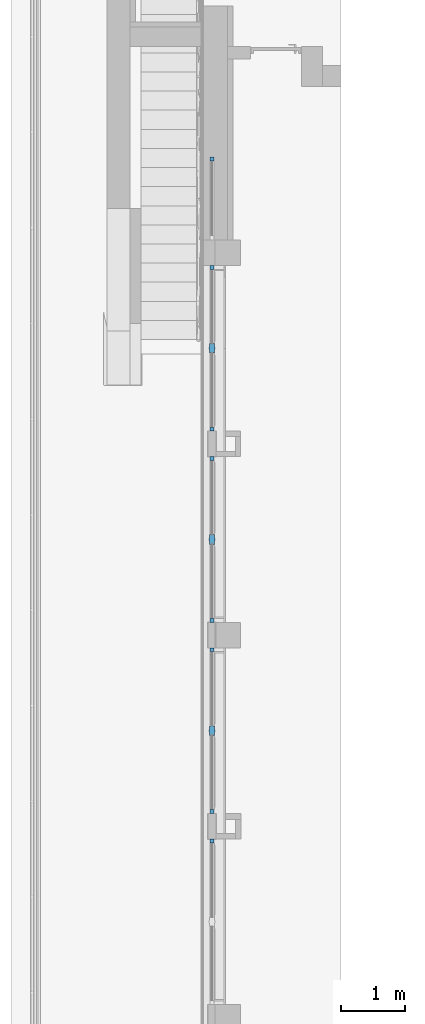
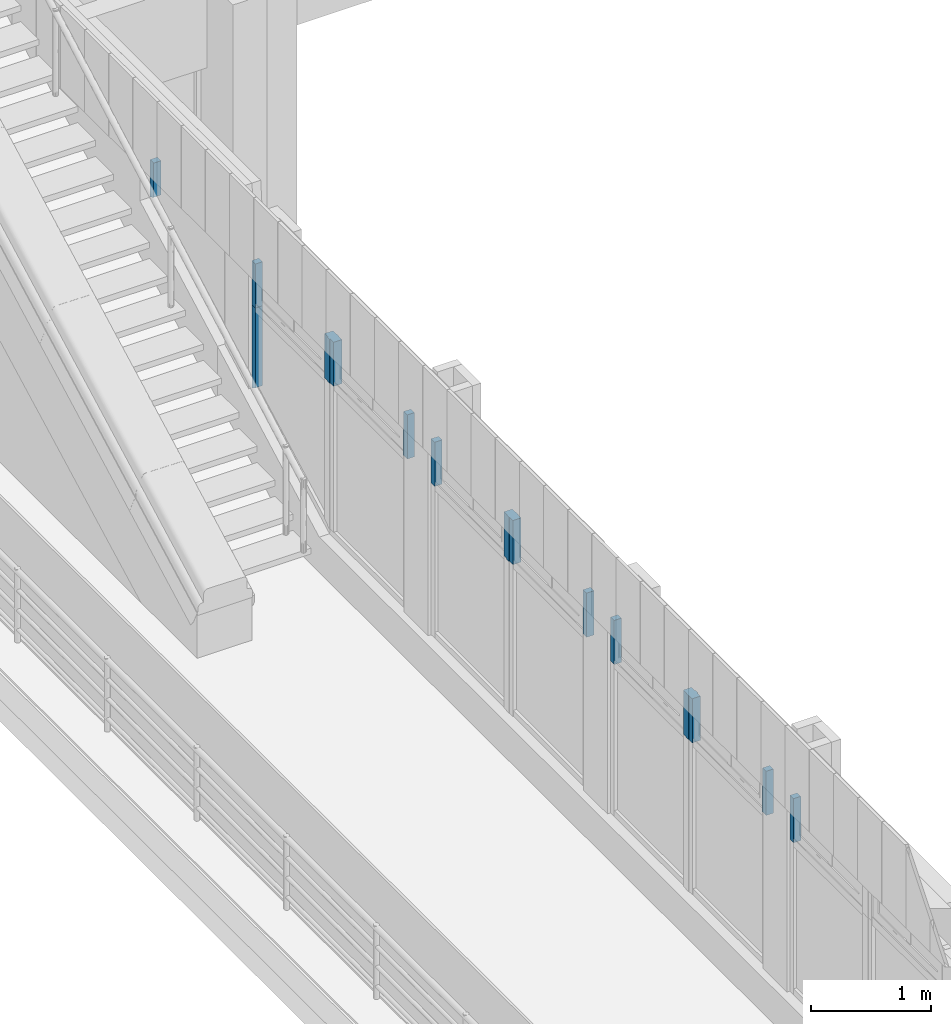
# One storey, part 6 of 16: 12 members, 5 elements without a shape of their own.
"""IFC2X3 building model written with IfcOpenShell, lengths in millimetres."""

import ifcopenshell
import ifcopenshell.guid

model = None  # the IFC model being written
_history = None  # IfcOwnerHistory: only IFC2X3 demands one
_inside = {}  # id of a spatial element -> (the spatial element, [elements in it])
_under = {}  # id of a project, library or spatial element -> (it, [spatial elements below it])
_declared = {}  # id of a project -> (the project, [libraries it declares])
_typed = {}  # id of a type object -> (the type object, [elements of that type])
_made_of = {}  # id of a material, layer set ... -> (it, [elements and type objects made of it])


def new_model(schema):
    """Start an empty IFC model of exactly this schema.

    Asked for "IFC4X3", IfcOpenShell would pick the latest addendum, in which some entities
    have other attributes; the version numbers below select the first issue.
    IFC2X3 requires an IfcOwnerHistory on every rooted entity: one is made here for all.
    """
    global model, _history
    if schema == "IFC4X3":
        model = ifcopenshell.file(schema_version=(4, 3, 0, 0))
    else:
        model = ifcopenshell.file(schema=schema)
    _inside.clear()
    _under.clear()
    _declared.clear()
    _typed.clear()
    _made_of.clear()
    _history = None
    if model.schema == "IFC2X3":
        org = make("IfcOrganization", Name="unknown")
        user = make(
            "IfcPersonAndOrganization",
            ThePerson=make("IfcPerson", FamilyName="unknown"),
            TheOrganization=org,
        )
        app = make(
            "IfcApplication",
            ApplicationDeveloper=org,
            Version="unknown",
            ApplicationFullName="unknown",
            ApplicationIdentifier="unknown",
        )
        _history = make(
            "IfcOwnerHistory",
            OwningUser=user,
            OwningApplication=app,
            ChangeAction="ADDED",
            CreationDate=0,
        )
    return model


def make(cls, **values):
    """One entity of the class cls with the attributes given. An attribute that is None is left unset."""
    return model.create_entity(
        cls, **{name: value for name, value in values.items() if value is not None}
    )


def entity(cls, *values):
    """Any entity or typed value of the class cls, its attributes in the order of the schema. None: left unset."""
    e = model.create_entity(cls)
    for i, value in enumerate(values):
        if value is not None:
            e[i] = value
    return e


def rooted(cls, **values):
    """An entity with a GlobalId (a new one), such as an element, a storey or a relation."""
    return make(cls, GlobalId=ifcopenshell.guid.new(), OwnerHistory=_history, **values)


def si_unit(unit_type, name, prefix=None):
    """IfcSIUnit, for example si_unit("LENGTHUNIT", "METRE", prefix="MILLI")."""
    return make("IfcSIUnit", UnitType=unit_type, Prefix=prefix, Name=name)


def converted_unit(unit_type, name, factor, base, dimensions=None, offset=None):
    """IfcConversionBasedUnit, such as the inch: factor (a typed value) times the base unit."""
    return make(
        "IfcConversionBasedUnit"
        if offset is None
        else "IfcConversionBasedUnitWithOffset",
        ConversionOffset=offset,
        Dimensions=None
        if dimensions is None
        else entity("IfcDimensionalExponents", *dimensions),
        UnitType=unit_type,
        Name=name,
        ConversionFactor=make(
            "IfcMeasureWithUnit", ValueComponent=factor, UnitComponent=base
        ),
    )


def derived_unit(unit_type, elements):
    """IfcDerivedUnit: a product of units, each with its exponent."""
    return make(
        "IfcDerivedUnit",
        Elements=[
            make("IfcDerivedUnitElement", Unit=unit, Exponent=power)
            for unit, power in elements
        ],
        UnitType=unit_type,
    )


def assignment(units):
    """IfcUnitAssignment: the units of a project."""
    return None if units is None else make("IfcUnitAssignment", Units=units)


def point(xyz):
    """IfcCartesianPoint."""
    return None if xyz is None else make("IfcCartesianPoint", Coordinates=xyz)


def direction(xyz):
    """IfcDirection."""
    return None if xyz is None else make("IfcDirection", DirectionRatios=xyz)


def frame(location, z_axis=None, x_axis=None):
    """IfcAxis2Placement3D, a coordinate frame: its origin and axes. An axis left out is left unset."""
    return make(
        "IfcAxis2Placement3D",
        Location=point(location),
        Axis=direction(z_axis),
        RefDirection=direction(x_axis),
    )


def frame_2d(location, x_axis=None):
    """IfcAxis2Placement2D, a coordinate frame in the plane: its origin and x axis."""
    return make(
        "IfcAxis2Placement2D", Location=point(location), RefDirection=direction(x_axis)
    )


def origin():
    """The frame at (0, 0, 0) with its axes left unset."""
    return frame((0.0, 0.0, 0.0))


def place(relative_to, where):
    """IfcLocalPlacement: puts the frame where relative to a parent placement (None: the world)."""
    return make(
        "IfcLocalPlacement", PlacementRelTo=relative_to, RelativePlacement=where
    )


def context(
    kind, dimensions, precision=None, world=None, true_north=None, identifier=None
):
    """IfcGeometricRepresentationContext, for example the 3D "Model" context."""
    return make(
        "IfcGeometricRepresentationContext",
        ContextIdentifier=identifier,
        ContextType=kind,
        CoordinateSpaceDimension=dimensions,
        Precision=precision,
        WorldCoordinateSystem=world,
        TrueNorth=true_north,
    )


def subcontext(parent, identifier, kind, view, scale=None):
    """IfcGeometricRepresentationSubContext, for example "Body" below "Model"."""
    return make(
        "IfcGeometricRepresentationSubContext",
        ContextIdentifier=identifier,
        ContextType=kind,
        ParentContext=parent,
        TargetScale=scale,
        TargetView=view,
    )


def project(units=None, contexts=None):
    """IfcProject with its units and contexts."""
    return rooted(
        "IfcProject",
        Name="project",
        RepresentationContexts=contexts,
        UnitsInContext=assignment(units),
    )


def spatial(cls, under=None, at=None, **own):
    """A site, building, storey or space (cls), placed at a placement, below another one or the project."""
    s = rooted(cls, ObjectPlacement=at, **own)
    if under is not None:
        _under.setdefault(under.id(), (under, []))[1].append(s)
    return s


def polyline(points):
    """IfcPolyline through the points."""
    return make("IfcPolyline", Points=[point(p) for p in points])


def profile(cls, at=None, kind="AREA", **sizes):
    """A parametric profile (cls). Its sizes go by their IFC names, for example OverallWidth=200.0."""
    return make(cls, ProfileType=kind, Position=at, **sizes)


def rectangle(**sizes):
    """IfcRectangleProfileDef."""
    return profile("IfcRectangleProfileDef", **sizes)


def outline(outer, holes=None, kind="AREA"):
    """IfcArbitraryClosedProfileDef: a profile drawn as a closed curve; with holes, ...WithVoids."""
    if holes is None:
        return make("IfcArbitraryClosedProfileDef", ProfileType=kind, OuterCurve=outer)
    return make(
        "IfcArbitraryProfileDefWithVoids",
        ProfileType=kind,
        OuterCurve=outer,
        InnerCurves=holes,
    )


def extrude(swept, where, along, depth):
    """IfcExtrudedAreaSolid: the profile swept, set in the frame where, extruded along a direction by depth."""
    return make(
        "IfcExtrudedAreaSolid",
        SweptArea=swept,
        Position=where,
        ExtrudedDirection=direction(along),
        Depth=depth,
    )


def shape(context_of_items, identifier, shape_type, items):
    """IfcShapeRepresentation: the items that make up one representation, for example the "Body"."""
    return make(
        "IfcShapeRepresentation",
        ContextOfItems=context_of_items,
        RepresentationIdentifier=identifier,
        RepresentationType=shape_type,
        Items=items,
    )


def source(mapping_origin, context_of_items, identifier, shape_type, items):
    """IfcRepresentationMap: a shape defined once, which mapped items show again and again."""
    return make(
        "IfcRepresentationMap",
        MappingOrigin=mapping_origin,
        MappedRepresentation=shape(context_of_items, identifier, shape_type, items),
    )


def transform(
    local_origin,
    x_axis=None,
    y_axis=None,
    z_axis=None,
    scale=None,
    scale2=None,
    scale3=None,
    uniform=True,
):
    """IfcCartesianTransformationOperator3D, or its non-uniform kind. x_axis, y_axis, z_axis: its Axis1, 2, 3."""
    if uniform:
        return make(
            "IfcCartesianTransformationOperator3D",
            Axis1=direction(x_axis),
            Axis2=direction(y_axis),
            LocalOrigin=point(local_origin),
            Scale=scale,
            Axis3=direction(z_axis),
        )
    return make(
        "IfcCartesianTransformationOperator3DnonUniform",
        Axis1=direction(x_axis),
        Axis2=direction(y_axis),
        LocalOrigin=point(local_origin),
        Scale=scale,
        Axis3=direction(z_axis),
        Scale2=scale2,
        Scale3=scale3,
    )


def mapped(mapping_source, mapping_target):
    """IfcMappedItem: shows the shape of a source again, moved by a transform."""
    return make(
        "IfcMappedItem", MappingSource=mapping_source, MappingTarget=mapping_target
    )


def material(Name=None, Category=None):
    """IfcMaterial."""
    return make("IfcMaterial", Name=Name, Category=Category)


def made_of(thing, what):
    """Note that an element or type object is made of a material, layer set ...; save() writes the relation."""
    if what is not None:
        _made_of.setdefault(what.id(), (what, []))[1].append(thing)
    return thing


def type_object(cls, material=None, **own):
    """A type object (cls), such as IfcWallType, which elements share."""
    return made_of(rooted(cls, **own), material)


def type_shapes(of_type, sources):
    """Give a type object the sources (RepresentationMaps) that its elements show as mapped items."""
    of_type.RepresentationMaps = sources


def element(
    cls,
    number,
    at=None,
    inside=None,
    cuts=None,
    type_object=None,
    material=None,
    context=None,
    identifier="Body",
    shape_type=None,
    held_by="IfcProductDefinitionShape",
    body=None,
    shapes=None,
    **own,
):
    """One element of the class cls, such as IfcWall. Its Tag is "e" and its number.

    at: its placement. inside: the storey or other place that contains it. cuts: it is an
    opening in that element (IfcRelVoidsElement). A single representation is given by context,
    identifier, shape_type and body (its items); several are given by shapes. held_by: the class
    of the entity that holds the representations. save() writes the other relations.
    """
    e = rooted(cls, Tag="e%d" % number, ObjectPlacement=at, **own)
    if body is not None:
        shapes = [shape(context, identifier, shape_type, body)]
    if shapes is not None:
        e.Representation = make(held_by, Representations=shapes)
    if inside is not None:
        _inside.setdefault(inside.id(), (inside, []))[1].append(e)
    if cuts is not None:
        rooted(
            "IfcRelVoidsElement", RelatingBuildingElement=cuts, RelatedOpeningElement=e
        )
    if type_object is not None:
        _typed.setdefault(type_object.id(), (type_object, []))[1].append(e)
    return made_of(e, material)


def aggregate(whole, parts):
    """IfcRelAggregates: a whole, such as a stair, and the parts it consists of."""
    return rooted("IfcRelAggregates", RelatingObject=whole, RelatedObjects=parts)


def save(model, path):
    """Write the relations noted so far, then the file.

    IfcRelAggregates (storeys below a building ...), IfcRelContainedInSpatialStructure (elements
    in a storey), IfcRelDefinesByType, IfcRelAssociatesMaterial and IfcRelDeclares: one each for
    every whole, place, type object, material and project.
    """
    for whole, parts in _under.values():
        aggregate(whole, parts)
    for where, things in _inside.values():
        rooted(
            "IfcRelContainedInSpatialStructure",
            RelatedElements=things,
            RelatingStructure=where,
        )
    for kind, things in _typed.values():
        rooted("IfcRelDefinesByType", RelatedObjects=things, RelatingType=kind)
    for what, things in _made_of.values():
        rooted("IfcRelAssociatesMaterial", RelatedObjects=things, RelatingMaterial=what)
    for by, libraries in _declared.values():
        rooted("IfcRelDeclares", RelatingContext=by, RelatedDefinitions=libraries)
    model.write(path)


model = new_model("IFC2X3")

# Units and contexts
model_context = context("Model", 3, precision=0.01, world=origin(), true_north=direction((6.123031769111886e-17, 1.0)))
body_context = subcontext(model_context, "Body", "Model", "MODEL_VIEW")
ifc_project = project(units=[si_unit("LENGTHUNIT", "METRE", prefix="MILLI"), si_unit("AREAUNIT", "SQUARE_METRE"), si_unit("VOLUMEUNIT", "CUBIC_METRE"), converted_unit("PLANEANGLEUNIT", "DEGREE", entity("IfcPlaneAngleMeasure", 0.017453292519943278), si_unit("PLANEANGLEUNIT", "RADIAN"), dimensions=[0, 0, 0, 0, 0, 0, 0]), si_unit("MASSUNIT", "GRAM", prefix="KILO"), derived_unit("MASSDENSITYUNIT", [(si_unit("MASSUNIT", "GRAM", prefix="KILO"), 1), (si_unit("LENGTHUNIT", "METRE"), -3)]), derived_unit("IONCONCENTRATIONUNIT", [(si_unit("MASSUNIT", "GRAM", prefix="KILO"), 1), (si_unit("LENGTHUNIT", "METRE"), -3)]), derived_unit("MOMENTOFINERTIAUNIT", [(si_unit("LENGTHUNIT", "METRE"), 4)]), si_unit("TIMEUNIT", "SECOND"), si_unit("FREQUENCYUNIT", "HERTZ"), si_unit("THERMODYNAMICTEMPERATUREUNIT", "DEGREE_CELSIUS"), derived_unit("THERMALTRANSMITTANCEUNIT", [(si_unit("MASSUNIT", "GRAM", prefix="KILO"), 1), (si_unit("THERMODYNAMICTEMPERATUREUNIT", "KELVIN"), -1), (si_unit("TIMEUNIT", "SECOND"), -3)]), derived_unit("THERMALCONDUCTANCEUNIT", [(si_unit("MASSUNIT", "GRAM", prefix="KILO"), 1), (si_unit("THERMODYNAMICTEMPERATUREUNIT", "KELVIN"), -1), (si_unit("TIMEUNIT", "SECOND"), -3), (si_unit("LENGTHUNIT", "METRE"), 1)]), derived_unit("VOLUMETRICFLOWRATEUNIT", [(si_unit("LENGTHUNIT", "METRE", prefix="DECI"), 3), (si_unit("TIMEUNIT", "SECOND"), -1)]), derived_unit("MASSFLOWRATEUNIT", [(si_unit("MASSUNIT", "GRAM", prefix="KILO"), 1), (si_unit("TIMEUNIT", "SECOND"), -1)]), derived_unit("ROTATIONALFREQUENCYUNIT", [(si_unit("TIMEUNIT", "SECOND"), -1)]), si_unit("ELECTRICCURRENTUNIT", "AMPERE"), si_unit("ELECTRICVOLTAGEUNIT", "VOLT"), si_unit("POWERUNIT", "WATT"), si_unit("FORCEUNIT", "NEWTON", prefix="KILO"), si_unit("ILLUMINANCEUNIT", "LUX"), si_unit("LUMINOUSFLUXUNIT", "LUMEN"), si_unit("LUMINOUSINTENSITYUNIT", "CANDELA"), si_unit("ENERGYUNIT", "JOULE"), derived_unit("USERDEFINED", [(si_unit("MASSUNIT", "GRAM", prefix="KILO"), -1), (si_unit("LENGTHUNIT", "METRE"), -2), (si_unit("TIMEUNIT", "SECOND"), 3), (si_unit("LUMINOUSFLUXUNIT", "LUMEN"), 1)]), derived_unit("USERDEFINED", [(si_unit("MASSUNIT", "GRAM", prefix="KILO"), 1), (si_unit("TIMEUNIT", "SECOND"), -3), (si_unit("LENGTHUNIT", "METRE"), 3), (si_unit("ELECTRICCURRENTUNIT", "AMPERE"), -2)]), derived_unit("SOUNDPOWERUNIT", [(si_unit("MASSUNIT", "GRAM", prefix="KILO"), 1), (si_unit("TIMEUNIT", "SECOND"), -3), (si_unit("LENGTHUNIT", "METRE"), 2)]), derived_unit("SOUNDPRESSUREUNIT", [(si_unit("MASSUNIT", "GRAM", prefix="KILO"), 1), (si_unit("LENGTHUNIT", "METRE"), -1), (si_unit("TIMEUNIT", "SECOND"), -2)]), derived_unit("LINEARVELOCITYUNIT", [(si_unit("LENGTHUNIT", "METRE"), 1), (si_unit("TIMEUNIT", "SECOND"), -1)]), si_unit("PRESSUREUNIT", "PASCAL"), derived_unit("USERDEFINED", [(si_unit("MASSUNIT", "GRAM", prefix="KILO"), 1), (si_unit("LENGTHUNIT", "METRE"), -2), (si_unit("TIMEUNIT", "SECOND"), -2)]), derived_unit("LINEARFORCEUNIT", [(si_unit("MASSUNIT", "GRAM", prefix="KILO"), 1), (si_unit("TIMEUNIT", "SECOND"), -2)]), derived_unit("PLANARFORCEUNIT", [(si_unit("MASSUNIT", "GRAM", prefix="KILO"), 1), (si_unit("LENGTHUNIT", "METRE"), -1), (si_unit("TIMEUNIT", "SECOND"), -2)]), derived_unit("SPECIFICHEATCAPACITYUNIT", [(si_unit("THERMODYNAMICTEMPERATUREUNIT", "KELVIN"), -1), (si_unit("LENGTHUNIT", "METRE"), 2), (si_unit("TIMEUNIT", "SECOND"), -2)]), derived_unit("HEATFLUXDENSITYUNIT", [(si_unit("MASSUNIT", "GRAM", prefix="KILO"), 1), (si_unit("TIMEUNIT", "SECOND"), -3)]), derived_unit("HEATINGVALUEUNIT", [(si_unit("LENGTHUNIT", "METRE"), 2), (si_unit("TIMEUNIT", "SECOND"), -2)]), derived_unit("VAPORPERMEABILITYUNIT", [(si_unit("LENGTHUNIT", "METRE"), -1), (si_unit("TIMEUNIT", "SECOND"), 1)]), derived_unit("DYNAMICVISCOSITYUNIT", [(si_unit("MASSUNIT", "GRAM", prefix="KILO"), 1), (si_unit("TIMEUNIT", "SECOND"), -1), (si_unit("LENGTHUNIT", "METRE"), -1)]), derived_unit("THERMALEXPANSIONCOEFFICIENTUNIT", [(si_unit("THERMODYNAMICTEMPERATUREUNIT", "KELVIN"), -1)]), derived_unit("MODULUSOFELASTICITYUNIT", [(si_unit("MASSUNIT", "GRAM", prefix="KILO"), 1), (si_unit("LENGTHUNIT", "METRE"), -1), (si_unit("TIMEUNIT", "SECOND"), -2)]), derived_unit("ISOTHERMALMOISTURECAPACITYUNIT", [(si_unit("MASSUNIT", "GRAM", prefix="KILO"), -1), (si_unit("LENGTHUNIT", "METRE"), 3)]), derived_unit("MOISTUREDIFFUSIVITYUNIT", [(si_unit("TIMEUNIT", "SECOND"), -1), (si_unit("LENGTHUNIT", "METRE"), 2)]), derived_unit("MASSPERLENGTHUNIT", [(si_unit("MASSUNIT", "GRAM", prefix="KILO"), 1), (si_unit("LENGTHUNIT", "METRE"), -1)]), derived_unit("THERMALRESISTANCEUNIT", [(si_unit("MASSUNIT", "GRAM", prefix="KILO"), -1), (si_unit("TIMEUNIT", "SECOND"), 3), (si_unit("THERMODYNAMICTEMPERATUREUNIT", "KELVIN"), 1)]), derived_unit("ACCELERATIONUNIT", [(si_unit("LENGTHUNIT", "METRE"), 1), (si_unit("TIMEUNIT", "SECOND"), -2)]), derived_unit("ANGULARVELOCITYUNIT", [(si_unit("TIMEUNIT", "SECOND"), -1), (si_unit("PLANEANGLEUNIT", "RADIAN"), 1)]), derived_unit("LINEARSTIFFNESSUNIT", [(si_unit("MASSUNIT", "GRAM", prefix="KILO"), 1), (si_unit("TIMEUNIT", "SECOND"), -2)]), derived_unit("WARPINGCONSTANTUNIT", [(si_unit("LENGTHUNIT", "METRE"), 6)]), derived_unit("LINEARMOMENTUNIT", [(si_unit("MASSUNIT", "GRAM", prefix="KILO"), 1), (si_unit("LENGTHUNIT", "METRE"), 1), (si_unit("TIMEUNIT", "SECOND"), -2)]), derived_unit("TORQUEUNIT", [(si_unit("MASSUNIT", "GRAM", prefix="KILO"), 1), (si_unit("LENGTHUNIT", "METRE"), 2), (si_unit("TIMEUNIT", "SECOND"), -2)])], contexts=[model_context])

# Site, building, storey
site_placement = place(None, origin())
site = spatial("IfcSite", under=ifc_project, at=site_placement, Name="Default", CompositionType="ELEMENT")
building_placement = place(site_placement, origin())
building = spatial("IfcBuilding", under=site, at=building_placement, Name="Eesti Rahvusraamatukogu hoone renoveerimise projekteerimistööd", CompositionType="ELEMENT")
storey_placement = place(building_placement, frame((0.0, 0.0, 8250.000000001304)))
storey = spatial("IfcBuildingStorey", under=building, at=storey_placement, Name="3. korrus", CompositionType="ELEMENT", Elevation=8250.000000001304)

# Curtain wall, member
curtain_wall_type_1 = type_object("IfcCurtainWallType", Name="Curtain Wall:A-18", PredefinedType="NOTDEFINED")
curtain_wall_1_placement = place(storey_placement, frame((0.0, 0.0, -8250.000000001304)))
curtain_wall_1 = element("IfcCurtainWall", 1, at=curtain_wall_1_placement, inside=storey, type_object=curtain_wall_type_1, Name="Curtain Wall:A-18", ObjectType="Curtain Wall:A-18")
ifc_material = material(Name="LUMION_dark steel window frames")
member_type_1 = type_object("IfcMemberType", Name="Rectangular Mullion:NEW 60x70mm", PredefinedType="MULLION", material=ifc_material)
shared_shape_1 = source(origin(), body_context, "Body", "SweptSolid", [
    extrude(outline(polyline([(-201.2671035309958, -30.0), (183.34828108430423, -30.0), (183.34828108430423, 30.0), (-165.42945863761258, 30.0), (-201.2671035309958, -30.0)])), frame((-30.0, -35.0, -201.2671035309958), z_axis=(0.0, 1.0, 0.0), x_axis=(0.0, 0.0, -1.0)), (0.0, 0.0, 1.0), 69.99999999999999),
])
type_shapes(member_type_1, [shared_shape_1])
member_1_placement = place(curtain_wall_1_placement, frame((-33635.0, 43890.0, 10465.384615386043), z_axis=(0.0, 0.0, -1.0), x_axis=(0.0, 1.0, 0.0)))
member_1 = element("IfcMember", 2, at=member_1_placement, type_object=member_type_1, material=ifc_material, Name="Rectangular Mullion:NEW 60x70mm", ObjectType="Rectangular Mullion:NEW 60x70mm", context=body_context, shape_type="MappedRepresentation", body=[
    mapped(shared_shape_1, transform((0.0, 0.0, 0.0), scale=1.0)),
])
aggregate(curtain_wall_1, [member_1])

curtain_wall_type_2 = type_object("IfcCurtainWallType", Name="Curtain Wall:A-16", PredefinedType="NOTDEFINED")
curtain_wall_2_placement = place(storey_placement, frame((0.0, 0.0, -8250.000000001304)))
curtain_wall_2 = element("IfcCurtainWall", 3, at=curtain_wall_2_placement, inside=storey, type_object=curtain_wall_type_2, Name="Curtain Wall:A-16", ObjectType="Curtain Wall:A-16")
member_type_2 = type_object("IfcMemberType", Name="Rectangular Mullion:NEW 60x70mm", PredefinedType="MULLION", material=ifc_material)
shared_shape_2 = source(origin(), body_context, "Body", "SweptSolid", [
    extrude(rectangle(XDim=60.0, YDim=70.0, at=frame_2d((0.0, 3.552713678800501e-15), x_axis=(1.0, 0.0))), frame((-30.0, 0.0, -450.0), z_axis=(0.0, 0.0, 1.0), x_axis=(-1.0, 0.0, 0.0)), (0.0, 0.0, 1.0), 449.9999999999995),
])
type_shapes(member_type_2, [shared_shape_2])
member_2_placement = place(curtain_wall_2_placement, frame((-33635.0, 33590.0, 10850.000000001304), z_axis=(0.0, 0.0, 1.0), x_axis=(0.0, -1.0, 0.0)))
member_2 = element("IfcMember", 4, at=member_2_placement, type_object=member_type_2, material=ifc_material, Name="Rectangular Mullion:NEW 60x70mm", ObjectType="Rectangular Mullion:NEW 60x70mm", context=body_context, shape_type="MappedRepresentation", body=[
    mapped(shared_shape_2, transform((0.0, 0.0, 0.0), scale=1.0)),
])

curtain_wall_3_placement = place(storey_placement, frame((0.0, 0.0, -8250.000000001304)))
curtain_wall_3 = element("IfcCurtainWall", 5, at=curtain_wall_3_placement, inside=storey, type_object=curtain_wall_type_2, Name="Curtain Wall:A-16", ObjectType="Curtain Wall:A-16")
member_3_placement = place(curtain_wall_3_placement, frame((-33635.0, 36590.0, 10850.000000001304), z_axis=(0.0, 0.0, 1.0), x_axis=(0.0, -1.0, 0.0)))
member_3 = element("IfcMember", 6, at=member_3_placement, type_object=member_type_2, material=ifc_material, Name="Rectangular Mullion:NEW 60x70mm", ObjectType="Rectangular Mullion:NEW 60x70mm", context=body_context, shape_type="MappedRepresentation", body=[
    mapped(shared_shape_2, transform((0.0, 0.0, 0.0), scale=1.0)),
])

curtain_wall_type_3 = type_object("IfcCurtainWallType", Name="Curtain Wall:A-17", PredefinedType="NOTDEFINED")
curtain_wall_4_placement = place(storey_placement, frame((0.0, 0.0, -8250.000000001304)))
curtain_wall_4 = element("IfcCurtainWall", 7, at=curtain_wall_4_placement, inside=storey, type_object=curtain_wall_type_3, Name="Curtain Wall:A-17", ObjectType="Curtain Wall:A-17")
member_4_placement = place(curtain_wall_4_placement, frame((-33635.0, 39590.0, 10850.000000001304), z_axis=(0.0, 0.0, 1.0), x_axis=(0.0, -1.0, 0.0)))
member_4 = element("IfcMember", 8, at=member_4_placement, type_object=member_type_2, material=ifc_material, Name="Rectangular Mullion:NEW 60x70mm", ObjectType="Rectangular Mullion:NEW 60x70mm", context=body_context, shape_type="MappedRepresentation", body=[
    mapped(shared_shape_2, transform((0.0, 0.0, 0.0), scale=1.0)),
])

curtain_wall_5_placement = place(storey_placement, frame((0.0, 0.0, -8250.000000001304)))
curtain_wall_5 = element("IfcCurtainWall", 9, at=curtain_wall_5_placement, inside=storey, type_object=curtain_wall_type_2, Name="Curtain Wall:A-16", ObjectType="Curtain Wall:A-16")
member_type_3 = type_object("IfcMemberType", Name="Rectangular Mullion:NEW 60x70mm", PredefinedType="MULLION", material=ifc_material)
shared_shape_3 = source(origin(), body_context, "Body", "SweptSolid", [
    extrude(rectangle(XDim=60.0, YDim=70.0, at=frame_2d((0.0, -3.552713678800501e-15), x_axis=(1.0, 0.0))), frame((-30.0, 0.0, -450.0), z_axis=(0.0, 0.0, 1.0), x_axis=(-1.0, 0.0, 0.0)), (0.0, 0.0, 1.0), 449.9999999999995),
])
type_shapes(member_type_3, [shared_shape_3])
member_5_placement = place(curtain_wall_5_placement, frame((-33635.0, 33190.0, 10400.000000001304), z_axis=(0.0, 0.0, -1.0), x_axis=(0.0, 1.0, 0.0)))
member_5 = element("IfcMember", 10, at=member_5_placement, type_object=member_type_3, material=ifc_material, Name="Rectangular Mullion:NEW 60x70mm", ObjectType="Rectangular Mullion:NEW 60x70mm", context=body_context, shape_type="MappedRepresentation", body=[
    mapped(shared_shape_3, transform((0.0, 0.0, 0.0), scale=1.0)),
])
aggregate(curtain_wall_5, [member_5])

# Member
member_6_placement = place(curtain_wall_2_placement, frame((-33635.0, 36190.0, 10400.000000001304), z_axis=(0.0, 0.0, -1.0), x_axis=(0.0, 1.0, 0.0)))
member_6 = element("IfcMember", 11, at=member_6_placement, type_object=member_type_3, material=ifc_material, Name="Rectangular Mullion:NEW 60x70mm", ObjectType="Rectangular Mullion:NEW 60x70mm", context=body_context, shape_type="MappedRepresentation", body=[
    mapped(shared_shape_3, transform((0.0, 0.0, 0.0), scale=1.0)),
])

member_7_placement = place(curtain_wall_3_placement, frame((-33635.0, 39190.0, 10400.000000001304), z_axis=(0.0, 0.0, -1.0), x_axis=(0.0, 1.0, 0.0)))
member_7 = element("IfcMember", 12, at=member_7_placement, type_object=member_type_3, material=ifc_material, Name="Rectangular Mullion:NEW 60x70mm", ObjectType="Rectangular Mullion:NEW 60x70mm", context=body_context, shape_type="MappedRepresentation", body=[
    mapped(shared_shape_3, transform((0.0, 0.0, 0.0), scale=1.0)),
])

member_8_placement = place(curtain_wall_4_placement, frame((-33635.0, 42190.0, 10400.000000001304), z_axis=(0.0, 0.0, -1.0), x_axis=(0.0, 1.0, 0.0)))
member_8 = element("IfcMember", 13, at=member_8_placement, type_object=member_type_3, material=ifc_material, Name="Rectangular Mullion:NEW 60x70mm", ObjectType="Rectangular Mullion:NEW 60x70mm", context=body_context, shape_type="MappedRepresentation", body=[
    mapped(shared_shape_3, transform((0.0, 0.0, 0.0), scale=1.0)),
])

member_type_4 = type_object("IfcMemberType", Name="Rectangular Mullion:NEW 150x90mm", PredefinedType="MULLION", material=ifc_material)
shared_shape_4 = source(origin(), body_context, "Body", "SweptSolid", [
    extrude(outline(polyline([(40.0, -20.0), (45.0, -20.0), (45.0, 20.0), (40.0, 20.0), (40.0, 75.0), (-40.0, 75.0), (-40.0, 20.0), (-45.0, 20.0), (-45.0, -20.0), (-40.0, -20.0), (-40.0, -75.0), (40.0, -75.0), (40.0, -20.0)])), frame((0.0, 0.0, -450.0), z_axis=(0.0, 0.0, 1.0), x_axis=(0.0, -1.0, 0.0)), (0.0, 0.0, 1.0), 449.9999999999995),
])
type_shapes(member_type_4, [shared_shape_4])
member_9_placement = place(curtain_wall_2_placement, frame((-33635.0, 34890.0, 10400.000000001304), z_axis=(0.0, 0.0, -1.0), x_axis=(0.0, 1.0, 0.0)))
member_9 = element("IfcMember", 14, at=member_9_placement, type_object=member_type_4, material=ifc_material, Name="Rectangular Mullion:NEW 150x90mm", ObjectType="Rectangular Mullion:NEW 150x90mm", context=body_context, shape_type="MappedRepresentation", body=[
    mapped(shared_shape_4, transform((0.0, 0.0, 0.0), scale=1.0)),
])

aggregate(curtain_wall_2, [member_2, member_6, member_9])

member_10_placement = place(curtain_wall_3_placement, frame((-33635.0, 37890.0, 10400.000000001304), z_axis=(0.0, 0.0, -1.0), x_axis=(0.0, 1.0, 0.0)))
member_10 = element("IfcMember", 15, at=member_10_placement, type_object=member_type_4, material=ifc_material, Name="Rectangular Mullion:NEW 150x90mm", ObjectType="Rectangular Mullion:NEW 150x90mm", context=body_context, shape_type="MappedRepresentation", body=[
    mapped(shared_shape_4, transform((0.0, 0.0, 0.0), scale=1.0)),
])

aggregate(curtain_wall_3, [member_3, member_7, member_10])

member_11_placement = place(curtain_wall_4_placement, frame((-33635.0, 40890.0, 10400.000000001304), z_axis=(0.0, 0.0, -1.0), x_axis=(0.0, 1.0, 0.0)))
member_11 = element("IfcMember", 16, at=member_11_placement, type_object=member_type_4, material=ifc_material, Name="Rectangular Mullion:NEW 150x90mm", ObjectType="Rectangular Mullion:NEW 150x90mm", context=body_context, shape_type="MappedRepresentation", body=[
    mapped(shared_shape_4, transform((0.0, 0.0, 0.0), scale=1.0)),
])

member_type_5 = type_object("IfcMemberType", Name="Rectangular Mullion:NEW 60x70mm", PredefinedType="MULLION", material=ifc_material)
shared_shape_5 = source(origin(), body_context, "Body", "SweptSolid", [
    extrude(outline(polyline([(-433.9594112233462, -30.0), (416.0405887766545, -30.0), (416.0405887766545, 30.0), (-398.121766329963, 30.0), (-433.9594112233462, -30.0)])), frame((-30.0, -35.0, -433.95941122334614), z_axis=(0.0, 1.0, 0.0), x_axis=(0.0, 0.0, -1.0)), (0.0, 0.0, 1.0), 70.00000000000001),
])
type_shapes(member_type_5, [shared_shape_5])
member_12_placement = place(curtain_wall_4_placement, frame((-33635.0, 42190.0, 9550.000000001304), z_axis=(0.0, 0.0, -1.0), x_axis=(0.0, 1.0, 0.0)))
member_12 = element("IfcMember", 17, at=member_12_placement, type_object=member_type_5, material=ifc_material, Name="Rectangular Mullion:NEW 60x70mm", ObjectType="Rectangular Mullion:NEW 60x70mm", context=body_context, shape_type="MappedRepresentation", body=[
    mapped(shared_shape_5, transform((0.0, 0.0, 0.0), scale=1.0)),
])

aggregate(curtain_wall_4, [member_4, member_8, member_12, member_11])

save(model, "model.ifc")
